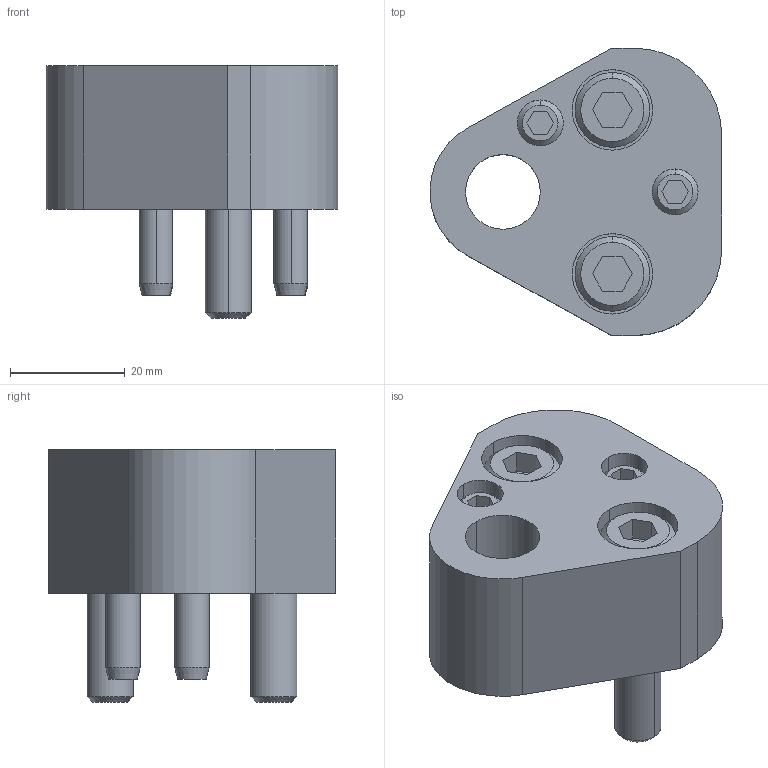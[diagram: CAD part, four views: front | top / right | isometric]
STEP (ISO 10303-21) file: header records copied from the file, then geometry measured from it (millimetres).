
FILE_DESCRIPTION(/* description */ (''),/* implementation_level */ '2;1');
FILE_NAME(/* name */ '3d_25crnar13_03133_r00.stp',/* time_stamp */ '2011-01-10T14:17:52+09:00',/* author */ ('MISUMI'),/* organization */ (''),/* preprocessor_version */ 'ST-DEVELOPER v11',/* originating_system */ 'UGS - NX 5.0',/* authorisation */ '');
FILE_SCHEMA (('CONFIG_CONTROL_DESIGN'));
Length unit declared in the file: millimetre
Products named in the file (1): 3d_25crnar13_03133_r00
Bounding box: 50.76 x 50 x 44 mm (x, y, z)
Volume: 43573.8 mm3; surface area: 16101.9 mm2
Topology: 7 solids, 7 shells, 135 faces, 294 edges, 188 vertices
Faces by surface type: plane 60, cylinder 49, cone 26
Entity records: 3836 total; most frequent: DIRECTION 684, CARTESIAN_POINT 672, ORIENTED_EDGE 588, EDGE_CURVE 294, AXIS2_PLACEMENT_3D 260, VERTEX_POINT 188, LINE 164, VECTOR 164
